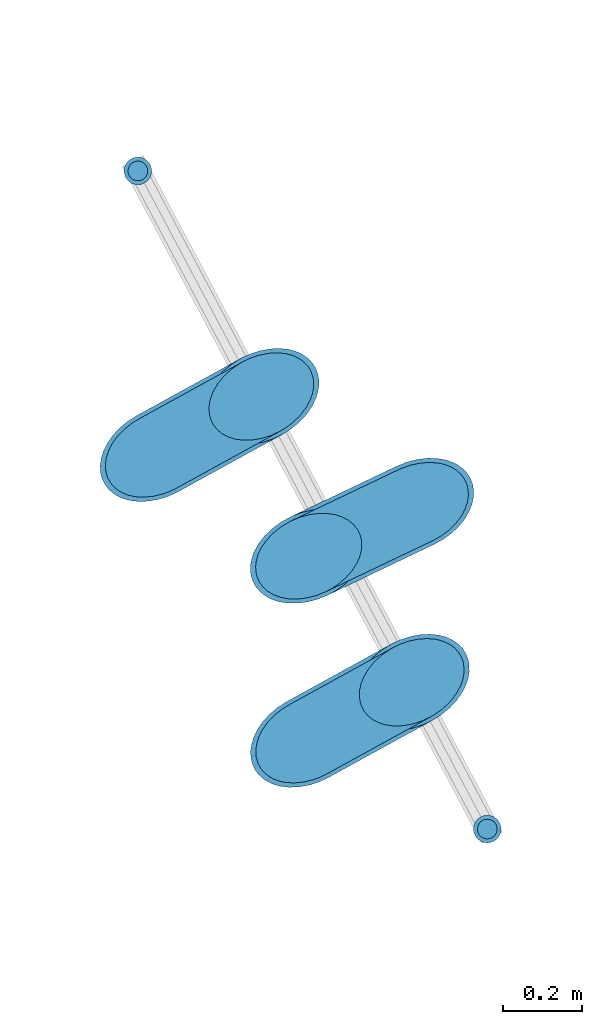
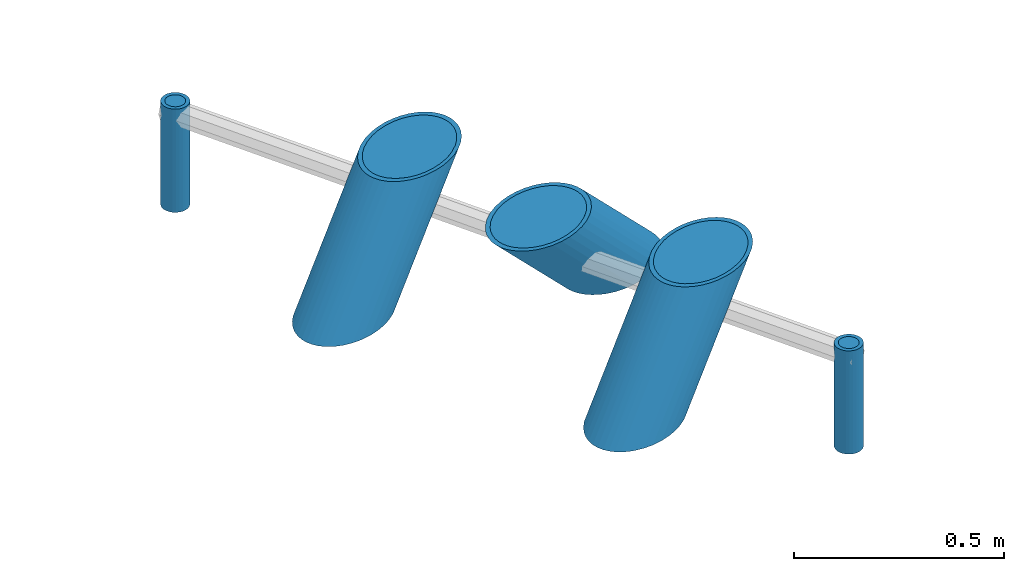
# One storey, part 39 of 194: 10 building element parts, 5 elements without a shape of their own.
"""IFC2X3 building model written with IfcOpenShell, lengths in millimetres."""

from ifc_helpers import new_model, entity, si_unit, converted_unit, derived_unit, money_unit, direction, frame, origin_with_axes, origin_2d_with_axis, place, context, subcontext, project, spatial, circle, hollow_circle, extrude, clip, halfspace, material, type_object, element, aggregate, save


model = new_model("IFC2X3")

# Units and contexts
model_context = context("Model", 3, precision=1e-05, world=origin_with_axes(), true_north=direction((0.0, 1.0)))
body_context = subcontext(model_context, "Body", "Model", "MODEL_VIEW")
ifc_project = project(units=[si_unit("LENGTHUNIT", "METRE", prefix="MILLI"), si_unit("AREAUNIT", "SQUARE_METRE"), si_unit("VOLUMEUNIT", "CUBIC_METRE"), converted_unit("PLANEANGLEUNIT", "DEGREE", entity("IfcPlaneAngleMeasure", 0.0174532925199), si_unit("PLANEANGLEUNIT", "RADIAN"), dimensions=[0, 0, 0, 0, 0, 0, 0]), si_unit("SOLIDANGLEUNIT", "STERADIAN"), money_unit("EUR"), converted_unit("TIMEUNIT", "Year", entity("IfcTimeMeasure", 31556926.0), si_unit("TIMEUNIT", "SECOND"), dimensions=[0, 0, 1, 0, 0, 0, 0]), si_unit("MASSUNIT", "GRAM", prefix="KILO"), si_unit("THERMODYNAMICTEMPERATUREUNIT", "DEGREE_CELSIUS"), si_unit("LUMINOUSINTENSITYUNIT", "LUMEN"), si_unit("ENERGYUNIT", "JOULE", prefix="MEGA"), derived_unit("THERMALCONDUCTANCEUNIT", [(si_unit("POWERUNIT", "WATT"), 1), (si_unit("LENGTHUNIT", "METRE"), -1), (si_unit("THERMODYNAMICTEMPERATUREUNIT", "KELVIN"), -1)]), derived_unit("SPECIFICHEATCAPACITYUNIT", [(si_unit("ENERGYUNIT", "JOULE"), 1), (si_unit("MASSUNIT", "GRAM", prefix="KILO"), -1), (si_unit("THERMODYNAMICTEMPERATUREUNIT", "KELVIN"), -1)]), derived_unit("MASSDENSITYUNIT", [(si_unit("MASSUNIT", "GRAM", prefix="KILO"), 1), (si_unit("VOLUMEUNIT", "CUBIC_METRE"), -1)])], contexts=[model_context])

# Site, building, storey
site_placement = place(None, origin_with_axes())
site = spatial("IfcSite", under=ifc_project, at=site_placement, Name="Site", CompositionType="ELEMENT")
building_placement = place(site_placement, origin_with_axes())
building = spatial("IfcBuilding", under=site, at=building_placement, Name="Building", CompositionType="ELEMENT")
storey_placement = place(building_placement, frame((0.0, 0.0, 3000.0), z_axis=(0.0, 0.0, 1.0), x_axis=(1.0, 0.0, 0.0)))
storey = spatial("IfcBuildingStorey", under=building, at=storey_placement, Name="2 KORRUS", CompositionType="ELEMENT", Elevation=3000.0)

# Flow terminal, building element parts
light_fixture_type_1 = type_object("IfcLightFixtureType", Name="Titaan - Tsink (1) D50", PredefinedType="NOTDEFINED")
flow_terminal_1_placement = place(storey_placement, frame((10513.5331451, 53227.2896478, -297.352101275), z_axis=(0.0, 0.0, 1.0), x_axis=(0.481877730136, -0.876238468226, 0.0)))
flow_terminal_1 = element("IfcFlowTerminal", 1, at=flow_terminal_1_placement, inside=storey, type_object=light_fixture_type_1, Name="Välisvalgusti")
ifc_material = material(Name="Titaan - Tsink (1)")
building_element_part_1_placement = place(flow_terminal_1_placement, origin_with_axes())
building_element_part_1 = element("IfcBuildingElementPart", 2, at=building_element_part_1_placement, material=ifc_material, Name="Titaan - Tsink (1)", context=body_context, shape_type="SweptSolid", body=[
    extrude(hollow_circle(Radius=35.0, WallThickness=10.0, at=origin_2d_with_axis()), origin_with_axes(), (0.0, 0.0, 1.0), 300.0),
])
building_element_part_2_placement = place(flow_terminal_1_placement, origin_with_axes())
building_element_part_2 = element("IfcBuildingElementPart", 3, at=building_element_part_2_placement, material=ifc_material, Name="Titaan - Tsink (1)", context=body_context, shape_type="SweptSolid", body=[
    extrude(circle(Radius=25.0, at=origin_2d_with_axis()), origin_with_axes(), (0.0, 0.0, 1.0), 300.0),
])
aggregate(flow_terminal_1, [building_element_part_1, building_element_part_2])

light_fixture_type_2 = type_object("IfcLightFixtureType", Name="Titaan - Tsink (1) D200", PredefinedType="NOTDEFINED")
flow_terminal_2_placement = place(storey_placement, frame((10945.6783286, 51784.9372052, -193.330286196), z_axis=(0.0, 0.0, 1.0), x_axis=(0.481877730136, -0.876238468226, 0.0)))
flow_terminal_2 = element("IfcFlowTerminal", 4, at=flow_terminal_2_placement, inside=storey, type_object=light_fixture_type_2, Name="Välisvalgusti")
building_element_part_3_placement = place(flow_terminal_2_placement, origin_with_axes())
building_element_part_3 = element("IfcBuildingElementPart", 5, at=building_element_part_3_placement, material=ifc_material, Name="Titaan - Tsink (1)", context=body_context, shape_type="Clipping", body=[
    clip(clip(extrude(hollow_circle(Radius=110.0, WallThickness=10.0, at=origin_2d_with_axis()), frame((0.0, -148.492424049, -148.492424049), z_axis=(0.0, 0.707106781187, 0.707106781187), x_axis=(1.0, 0.0, 0.0)), (0.0, 0.0, 1.0), 844.264068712), halfspace(frame((0.0, 0.0, 300.0), z_axis=(0.0, 0.0, -1.0), x_axis=(0.0, 1.0, 0.0)), True)), halfspace(frame((0.0, 0.0, 0.0), z_axis=(0.0, 0.0, 1.0), x_axis=(0.0, -1.0, 0.0)), True)),
])
building_element_part_4_placement = place(flow_terminal_2_placement, origin_with_axes())
building_element_part_4 = element("IfcBuildingElementPart", 6, at=building_element_part_4_placement, material=ifc_material, Name="Titaan - Tsink (1)", context=body_context, shape_type="Clipping", body=[
    clip(clip(extrude(circle(Radius=100.0, at=origin_2d_with_axis()), frame((0.0, -148.492424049, -148.492424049), z_axis=(0.0, 0.707106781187, 0.707106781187), x_axis=(1.0, 0.0, 0.0)), (0.0, 0.0, 1.0), 844.264068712), halfspace(frame((0.0, 0.0, 300.0), z_axis=(0.0, 0.0, -1.0), x_axis=(0.0, 1.0, 0.0)), True)), halfspace(frame((0.0, 0.0, 0.0), z_axis=(0.0, 0.0, 1.0), x_axis=(0.0, -1.0, 0.0)), True)),
])
aggregate(flow_terminal_2, [building_element_part_3, building_element_part_4])

flow_terminal_3_placement = place(storey_placement, frame((11217.7669202, 52378.7083695, -193.330286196), z_axis=(0.0, 0.0, 1.0), x_axis=(-0.430714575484, 0.902488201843, 0.0)))
flow_terminal_3 = element("IfcFlowTerminal", 7, at=flow_terminal_3_placement, inside=storey, type_object=light_fixture_type_2, Name="Välisvalgusti")
building_element_part_5_placement = place(flow_terminal_3_placement, origin_with_axes())
building_element_part_5 = element("IfcBuildingElementPart", 8, at=building_element_part_5_placement, material=ifc_material, Name="Titaan - Tsink (1)", context=body_context, shape_type="Clipping", body=[
    clip(clip(extrude(hollow_circle(Radius=110.0, WallThickness=10.0, at=origin_2d_with_axis()), frame((0.0, -148.492424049, -148.492424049), z_axis=(0.0, -0.707106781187, -0.707106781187), x_axis=(-1.0, 0.0, 0.0)), (0.0, 0.0, -1.0), 844.264068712), halfspace(frame((0.0, 0.0, 300.0), z_axis=(0.0, 0.0, -1.0), x_axis=(0.0, 1.0, 0.0)), True)), halfspace(frame((0.0, 0.0, 0.0), z_axis=(0.0, 0.0, 1.0), x_axis=(0.0, -1.0, 0.0)), True)),
])
building_element_part_6_placement = place(flow_terminal_3_placement, origin_with_axes())
building_element_part_6 = element("IfcBuildingElementPart", 9, at=building_element_part_6_placement, material=ifc_material, Name="Titaan - Tsink (1)", context=body_context, shape_type="Clipping", body=[
    clip(clip(extrude(circle(Radius=100.0, at=origin_2d_with_axis()), frame((0.0, -148.492424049, -148.492424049), z_axis=(0.0, -0.707106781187, -0.707106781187), x_axis=(-1.0, 0.0, 0.0)), (0.0, 0.0, -1.0), 844.264068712), halfspace(frame((0.0, 0.0, 300.0), z_axis=(0.0, 0.0, -1.0), x_axis=(0.0, 1.0, 0.0)), True)), halfspace(frame((0.0, 0.0, 0.0), z_axis=(0.0, 0.0, 1.0), x_axis=(0.0, -1.0, 0.0)), True)),
])
aggregate(flow_terminal_3, [building_element_part_5, building_element_part_6])

flow_terminal_4_placement = place(storey_placement, frame((10564.0023503, 52510.1665398, -193.330286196), z_axis=(0.0, 0.0, 1.0), x_axis=(0.481877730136, -0.876238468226, 0.0)))
flow_terminal_4 = element("IfcFlowTerminal", 10, at=flow_terminal_4_placement, inside=storey, type_object=light_fixture_type_2, Name="Välisvalgusti")
building_element_part_7_placement = place(flow_terminal_4_placement, origin_with_axes())
building_element_part_7 = element("IfcBuildingElementPart", 11, at=building_element_part_7_placement, material=ifc_material, Name="Titaan - Tsink (1)", context=body_context, shape_type="Clipping", body=[
    clip(clip(extrude(hollow_circle(Radius=110.0, WallThickness=10.0, at=origin_2d_with_axis()), frame((0.0, -148.492424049, -148.492424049), z_axis=(0.0, 0.707106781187, 0.707106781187), x_axis=(1.0, 0.0, 0.0)), (0.0, 0.0, 1.0), 844.264068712), halfspace(frame((0.0, 0.0, 300.0), z_axis=(0.0, 0.0, -1.0), x_axis=(0.0, 1.0, 0.0)), True)), halfspace(frame((0.0, 0.0, 0.0), z_axis=(0.0, 0.0, 1.0), x_axis=(0.0, -1.0, 0.0)), True)),
])
building_element_part_8_placement = place(flow_terminal_4_placement, origin_with_axes())
building_element_part_8 = element("IfcBuildingElementPart", 12, at=building_element_part_8_placement, material=ifc_material, Name="Titaan - Tsink (1)", context=body_context, shape_type="Clipping", body=[
    clip(clip(extrude(circle(Radius=100.0, at=origin_2d_with_axis()), frame((0.0, -148.492424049, -148.492424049), z_axis=(0.0, 0.707106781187, 0.707106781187), x_axis=(1.0, 0.0, 0.0)), (0.0, 0.0, 1.0), 844.264068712), halfspace(frame((0.0, 0.0, 300.0), z_axis=(0.0, 0.0, -1.0), x_axis=(0.0, 1.0, 0.0)), True)), halfspace(frame((0.0, 0.0, 0.0), z_axis=(0.0, 0.0, 1.0), x_axis=(0.0, -1.0, 0.0)), True)),
])
aggregate(flow_terminal_4, [building_element_part_7, building_element_part_8])

flow_terminal_5_placement = place(storey_placement, frame((11400.2728977, 51556.9868302, -297.352101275), z_axis=(0.0, 0.0, 1.0), x_axis=(0.481877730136, -0.876238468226, 0.0)))
flow_terminal_5 = element("IfcFlowTerminal", 13, at=flow_terminal_5_placement, inside=storey, type_object=light_fixture_type_1, Name="Välisvalgusti")
building_element_part_9_placement = place(flow_terminal_5_placement, origin_with_axes())
building_element_part_9 = element("IfcBuildingElementPart", 14, at=building_element_part_9_placement, material=ifc_material, Name="Titaan - Tsink (1)", context=body_context, shape_type="SweptSolid", body=[
    extrude(hollow_circle(Radius=35.0, WallThickness=10.0, at=origin_2d_with_axis()), origin_with_axes(), (0.0, 0.0, 1.0), 300.0),
])
building_element_part_10_placement = place(flow_terminal_5_placement, origin_with_axes())
building_element_part_10 = element("IfcBuildingElementPart", 15, at=building_element_part_10_placement, material=ifc_material, Name="Titaan - Tsink (1)", context=body_context, shape_type="SweptSolid", body=[
    extrude(circle(Radius=25.0, at=origin_2d_with_axis()), origin_with_axes(), (0.0, 0.0, 1.0), 300.0),
])
aggregate(flow_terminal_5, [building_element_part_9, building_element_part_10])

save(model, "model.ifc")
